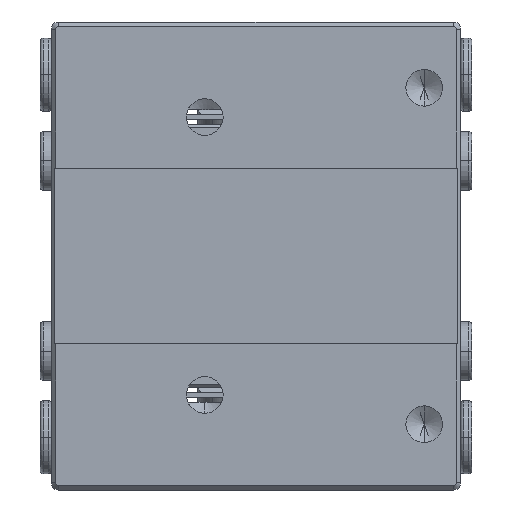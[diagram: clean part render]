
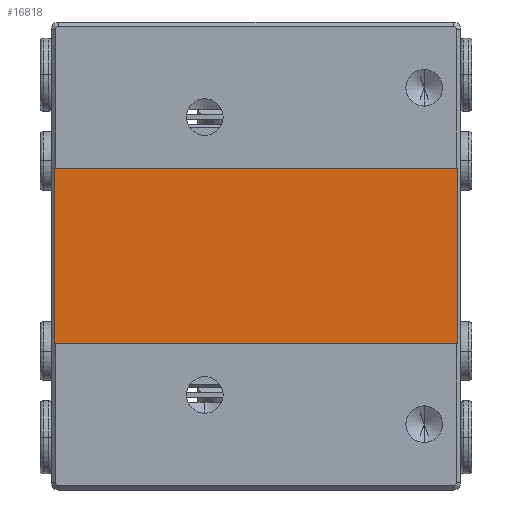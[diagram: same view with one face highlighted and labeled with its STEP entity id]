
A CAD part, front view. The second image highlights one B-rep face of the part: STEP entity #16818.
In plain terms, the highlighted planar face has unit normal (0, -1, 0).
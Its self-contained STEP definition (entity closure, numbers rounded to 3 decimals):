
#17 = VECTOR ( 'NONE', #17709, 1000. ) ;
#639 = VECTOR ( 'NONE', #8636, 1000. ) ;
#1932 = PLANE ( 'NONE',  #5387 ) ;
#2427 = DIRECTION ( 'NONE',  ( 1., 0., 0. ) ) ;
#2762 = ORIENTED_EDGE ( 'NONE', *, *, #12883, .T. ) ;
#3178 = EDGE_CURVE ( 'NONE', #16828, #15417, #6777, .T. ) ;
#5387 = AXIS2_PLACEMENT_3D ( 'NONE', #8935, #21096, #10690 ) ;
#5652 = EDGE_CURVE ( 'NONE', #14569, #6039, #13949, .T. ) ;
#6039 = VERTEX_POINT ( 'NONE', #6376 ) ;
#6376 = CARTESIAN_POINT ( 'NONE',  ( -13.8, 0.1, -6. ) ) ;
#6461 = CARTESIAN_POINT ( 'NONE',  ( 13.8, 0.1, 16. ) ) ;
#6777 = LINE ( 'NONE', #6461, #15475 ) ;
#6911 = ORIENTED_EDGE ( 'NONE', *, *, #5652, .T. ) ;
#8636 = DIRECTION ( 'NONE',  ( 0., 0., -1. ) ) ;
#8935 = CARTESIAN_POINT ( 'NONE',  ( 0., 0.1, 0. ) ) ;
#9160 = CARTESIAN_POINT ( 'NONE',  ( 13.8, 0.1, 6. ) ) ;
#10690 = DIRECTION ( 'NONE',  ( 0., 0., 1. ) ) ;
#12883 = EDGE_CURVE ( 'NONE', #6039, #16828, #18356, .T. ) ;
#12904 = CARTESIAN_POINT ( 'NONE',  ( -20.869, 0.1, -6. ) ) ;
#13131 = CARTESIAN_POINT ( 'NONE',  ( -13.8, 0.1, 6. ) ) ;
#13949 = LINE ( 'NONE', #20937, #639 ) ;
#14374 = EDGE_CURVE ( 'NONE', #15417, #14569, #17937, .T. ) ;
#14569 = VERTEX_POINT ( 'NONE', #13131 ) ;
#14606 = FACE_OUTER_BOUND ( 'NONE', #21028, .T. ) ;
#15022 = ORIENTED_EDGE ( 'NONE', *, *, #3178, .T. ) ;
#15417 = VERTEX_POINT ( 'NONE', #9160 ) ;
#15475 = VECTOR ( 'NONE', #16875, 1000. ) ;
#16818 = ADVANCED_FACE ( 'NONE', ( #14606 ), #1932, .F. ) ;
#16828 = VERTEX_POINT ( 'NONE', #19367 ) ;
#16875 = DIRECTION ( 'NONE',  ( 0., 0., 1. ) ) ;
#17709 = DIRECTION ( 'NONE',  ( -1., 0., 0. ) ) ;
#17800 = VECTOR ( 'NONE', #2427, 1000. ) ;
#17937 = LINE ( 'NONE', #21223, #17 ) ;
#18356 = LINE ( 'NONE', #12904, #17800 ) ;
#18866 = ORIENTED_EDGE ( 'NONE', *, *, #14374, .T. ) ;
#19367 = CARTESIAN_POINT ( 'NONE',  ( 13.8, 0.1, -6. ) ) ;
#20937 = CARTESIAN_POINT ( 'NONE',  ( -13.8, 0.1, 16. ) ) ;
#21028 = EDGE_LOOP ( 'NONE', ( #15022, #18866, #6911, #2762 ) ) ;
#21096 = DIRECTION ( 'NONE',  ( 0., 1., 0. ) ) ;
#21223 = CARTESIAN_POINT ( 'NONE',  ( -20.869, 0.1, 6. ) ) ;
